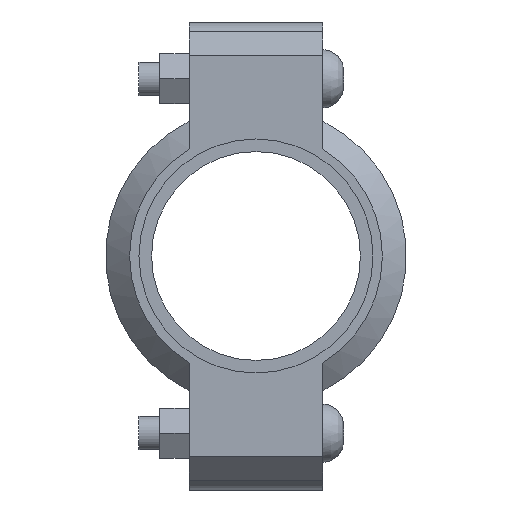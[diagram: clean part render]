
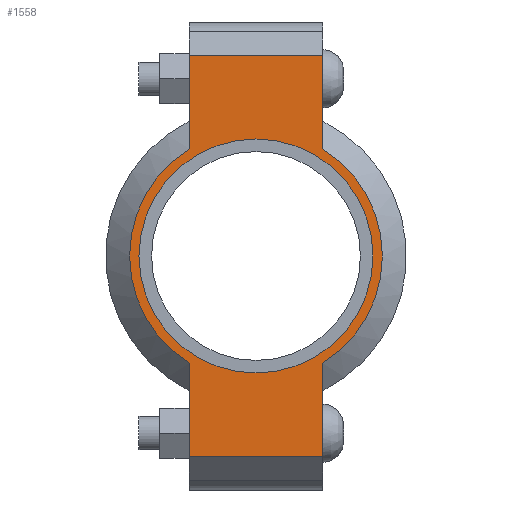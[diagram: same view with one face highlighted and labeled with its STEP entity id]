
A CAD part, left-side view. The second image highlights one B-rep face of the part: STEP entity #1558.
In plain terms, the highlighted planar face has unit normal (-1, 0, 0) as drawn and (0, 0, 1) by its records, which use the part's own axes.
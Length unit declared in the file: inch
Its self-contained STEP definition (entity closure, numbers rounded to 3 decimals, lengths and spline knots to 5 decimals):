
#182=LINE('',#2719,#275);
#190=LINE('',#2755,#283);
#197=LINE('',#2776,#290);
#206=LINE('',#2808,#299);
#207=LINE('',#2812,#300);
#208=LINE('',#2814,#301);
#275=VECTOR('',#2215,0.3937);
#283=VECTOR('',#2231,0.3937);
#290=VECTOR('',#2250,0.3937);
#299=VECTOR('',#2275,0.3937);
#300=VECTOR('',#2280,0.3937);
#301=VECTOR('',#2281,0.3937);
#357=FACE_BOUND('',#535,.T.);
#429=FACE_OUTER_BOUND('',#534,.T.);
#534=EDGE_LOOP('',(#1299,#1300,#1301,#1302,#1303,#1304,#1305,#1306));
#535=EDGE_LOOP('',(#1307));
#607=CIRCLE('',#1777,1.75);
#633=CIRCLE('',#1836,1.89);
#634=CIRCLE('',#1837,1.89);
#699=VERTEX_POINT('',#2535);
#742=VERTEX_POINT('',#2716);
#743=VERTEX_POINT('',#2718);
#754=VERTEX_POINT('',#2750);
#755=VERTEX_POINT('',#2754);
#762=VERTEX_POINT('',#2773);
#763=VERTEX_POINT('',#2775);
#773=VERTEX_POINT('',#2811);
#774=VERTEX_POINT('',#2813);
#855=EDGE_CURVE('',#699,#699,#607,.T.);
#916=EDGE_CURVE('',#743,#742,#182,.T.);
#930=EDGE_CURVE('',#755,#754,#190,.T.);
#940=EDGE_CURVE('',#763,#762,#197,.T.);
#955=EDGE_CURVE('',#755,#742,#206,.T.);
#956=EDGE_CURVE('',#754,#763,#633,.T.);
#957=EDGE_CURVE('',#773,#762,#207,.T.);
#958=EDGE_CURVE('',#773,#774,#208,.T.);
#959=EDGE_CURVE('',#774,#743,#634,.T.);
#1299=ORIENTED_EDGE('',*,*,#955,.F.);
#1300=ORIENTED_EDGE('',*,*,#930,.T.);
#1301=ORIENTED_EDGE('',*,*,#956,.T.);
#1302=ORIENTED_EDGE('',*,*,#940,.T.);
#1303=ORIENTED_EDGE('',*,*,#957,.F.);
#1304=ORIENTED_EDGE('',*,*,#958,.T.);
#1305=ORIENTED_EDGE('',*,*,#959,.T.);
#1306=ORIENTED_EDGE('',*,*,#916,.T.);
#1307=ORIENTED_EDGE('',*,*,#855,.T.);
#1400=PLANE('',#1835);
#1558=ADVANCED_FACE('',(#429,#357),#1400,.T.);
#1777=AXIS2_PLACEMENT_3D('',#2537,#2091,#2092);
#1835=AXIS2_PLACEMENT_3D('',#2809,#2276,#2277);
#1836=AXIS2_PLACEMENT_3D('',#2810,#2278,#2279);
#1837=AXIS2_PLACEMENT_3D('',#2815,#2282,#2283);
#2091=DIRECTION('center_axis',(0.,0.,-1.));
#2092=DIRECTION('ref_axis',(-1.,0.,0.));
#2215=DIRECTION('',(-1.,0.,0.));
#2231=DIRECTION('',(1.,0.,0.));
#2250=DIRECTION('',(1.,0.,0.));
#2275=DIRECTION('',(0.,1.,0.));
#2276=DIRECTION('center_axis',(0.,0.,1.));
#2277=DIRECTION('ref_axis',(1.,0.,0.));
#2278=DIRECTION('center_axis',(0.,0.,1.));
#2279=DIRECTION('ref_axis',(-1.,0.,0.));
#2280=DIRECTION('',(0.,-1.,0.));
#2281=DIRECTION('',(-1.,0.,0.));
#2282=DIRECTION('center_axis',(0.,0.,1.));
#2283=DIRECTION('ref_axis',(-1.,0.,0.));
#2535=CARTESIAN_POINT('',(1.75,0.,0.94));
#2537=CARTESIAN_POINT('Origin',(0.,0.,0.94));
#2716=CARTESIAN_POINT('',(-3.,1.,0.94));
#2718=CARTESIAN_POINT('',(-1.60378,1.,0.94));
#2719=CARTESIAN_POINT('',(-3.5,1.,0.94));
#2750=CARTESIAN_POINT('',(-1.60378,-1.,0.94));
#2754=CARTESIAN_POINT('',(-3.,-1.,0.94));
#2755=CARTESIAN_POINT('',(3.5,-1.,0.94));
#2773=CARTESIAN_POINT('',(3.,-1.,0.94));
#2775=CARTESIAN_POINT('',(1.60378,-1.,0.94));
#2776=CARTESIAN_POINT('',(3.5,-1.,0.94));
#2808=CARTESIAN_POINT('',(-3.,0.5,0.94));
#2809=CARTESIAN_POINT('Origin',(0.,0.,
0.94));
#2810=CARTESIAN_POINT('Origin',(0.,0.,0.94));
#2811=CARTESIAN_POINT('',(3.,1.,0.94));
#2812=CARTESIAN_POINT('',(3.,-0.5,0.94));
#2813=CARTESIAN_POINT('',(1.60378,1.,0.94));
#2814=CARTESIAN_POINT('',(-3.5,1.,0.94));
#2815=CARTESIAN_POINT('Origin',(0.,0.,0.94));
